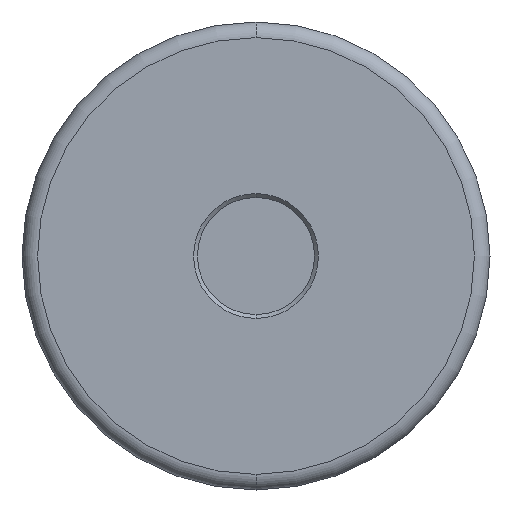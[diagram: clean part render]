
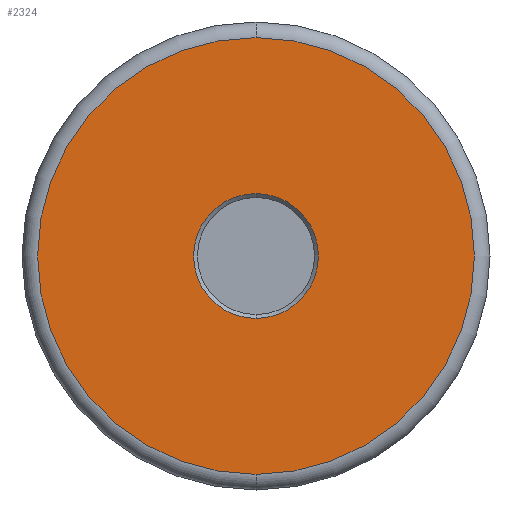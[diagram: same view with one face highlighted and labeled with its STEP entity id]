
A CAD part, front view. The second image highlights one B-rep face of the part: STEP entity #2324.
In plain terms, the highlighted planar face has unit normal (0, -1, 0).
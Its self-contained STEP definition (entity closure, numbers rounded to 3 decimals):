
#137 = ORIENTED_EDGE ( 'NONE', *, *, #1684, .F. ) ;
#243 = DIRECTION ( 'NONE',  ( 0., 0., -1. ) ) ;
#388 = VERTEX_POINT ( 'NONE', #2122 ) ;
#416 = PLANE ( 'NONE',  #5525 ) ;
#462 = CARTESIAN_POINT ( 'NONE',  ( 0., 0., 0. ) ) ;
#648 = AXIS2_PLACEMENT_3D ( 'NONE', #5669, #4217, #1752 ) ;
#1252 = DIRECTION ( 'NONE',  ( 0., -1., 0. ) ) ;
#1310 = CARTESIAN_POINT ( 'NONE',  ( 0., 0., -28. ) ) ;
#1454 = DIRECTION ( 'NONE',  ( 1., 0., 0. ) ) ;
#1490 = FACE_BOUND ( 'NONE', #1515, .T. ) ;
#1494 = ORIENTED_EDGE ( 'NONE', *, *, #1560, .T. ) ;
#1515 = EDGE_LOOP ( 'NONE', ( #137, #2521 ) ) ;
#1560 = EDGE_CURVE ( 'NONE', #2007, #388, #2027, .T. ) ;
#1684 = EDGE_CURVE ( 'NONE', #4172, #1946, #4037, .T. ) ;
#1737 = EDGE_CURVE ( 'NONE', #388, #2007, #1911, .T. ) ;
#1752 = DIRECTION ( 'NONE',  ( 0., 0., -1. ) ) ;
#1911 = CIRCLE ( 'NONE', #2645, 28. ) ;
#1946 = VERTEX_POINT ( 'NONE', #4179 ) ;
#2003 = FACE_OUTER_BOUND ( 'NONE', #4814, .T. ) ;
#2007 = VERTEX_POINT ( 'NONE', #1310 ) ;
#2027 = CIRCLE ( 'NONE', #648, 28. ) ;
#2078 = DIRECTION ( 'NONE',  ( 0., -1., 0. ) ) ;
#2122 = CARTESIAN_POINT ( 'NONE',  ( 0., 0., 28. ) ) ;
#2324 = ADVANCED_FACE ( 'NONE', ( #2003, #1490 ), #416, .F. ) ;
#2521 = ORIENTED_EDGE ( 'NONE', *, *, #5122, .F. ) ;
#2645 = AXIS2_PLACEMENT_3D ( 'NONE', #462, #5912, #5812 ) ;
#3104 = CARTESIAN_POINT ( 'NONE',  ( 0., 0., 0. ) ) ;
#3901 = CIRCLE ( 'NONE', #6116, 8. ) ;
#4016 = DIRECTION ( 'NONE',  ( 0., 0., -1. ) ) ;
#4037 = CIRCLE ( 'NONE', #4349, 8. ) ;
#4067 = CARTESIAN_POINT ( 'NONE',  ( 0., 0., -8. ) ) ;
#4172 = VERTEX_POINT ( 'NONE', #4067 ) ;
#4179 = CARTESIAN_POINT ( 'NONE',  ( 0., 0., 8. ) ) ;
#4217 = DIRECTION ( 'NONE',  ( 0., -1., 0. ) ) ;
#4349 = AXIS2_PLACEMENT_3D ( 'NONE', #3104, #2078, #4016 ) ;
#4814 = EDGE_LOOP ( 'NONE', ( #1494, #5762 ) ) ;
#4861 = CARTESIAN_POINT ( 'NONE',  ( 0., 0., 0. ) ) ;
#5122 = EDGE_CURVE ( 'NONE', #1946, #4172, #3901, .T. ) ;
#5525 = AXIS2_PLACEMENT_3D ( 'NONE', #6029, #6509, #1454 ) ;
#5669 = CARTESIAN_POINT ( 'NONE',  ( 0., 0., 0. ) ) ;
#5762 = ORIENTED_EDGE ( 'NONE', *, *, #1737, .T. ) ;
#5812 = DIRECTION ( 'NONE',  ( 0., 0., -1. ) ) ;
#5912 = DIRECTION ( 'NONE',  ( 0., -1., 0. ) ) ;
#6029 = CARTESIAN_POINT ( 'NONE',  ( -8., 0., 0. ) ) ;
#6116 = AXIS2_PLACEMENT_3D ( 'NONE', #4861, #1252, #243 ) ;
#6509 = DIRECTION ( 'NONE',  ( 0., 1., 0. ) ) ;
